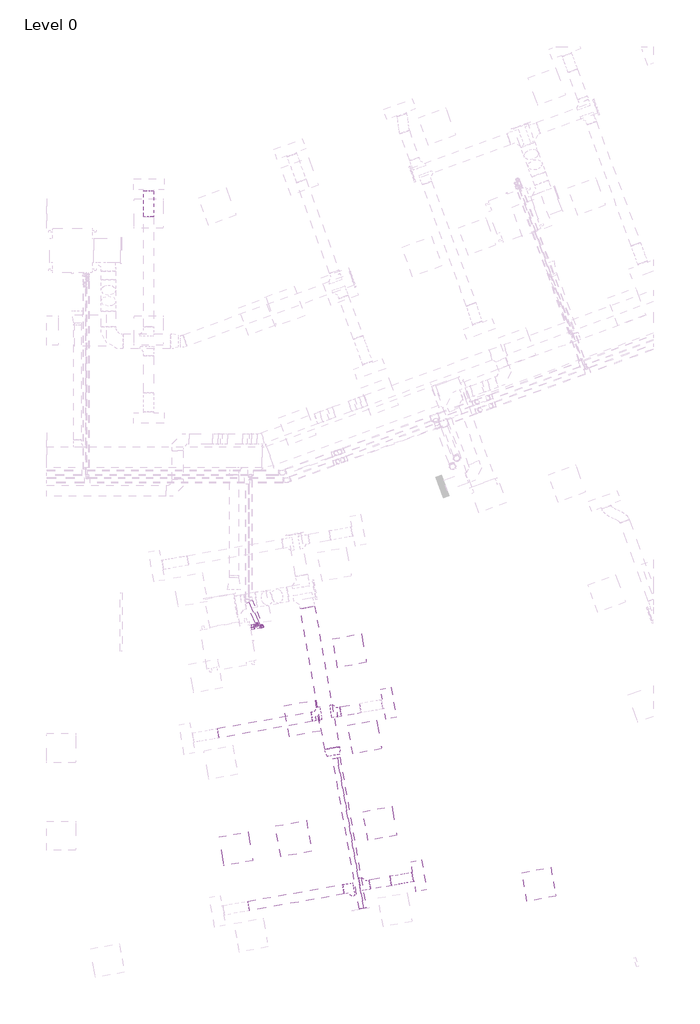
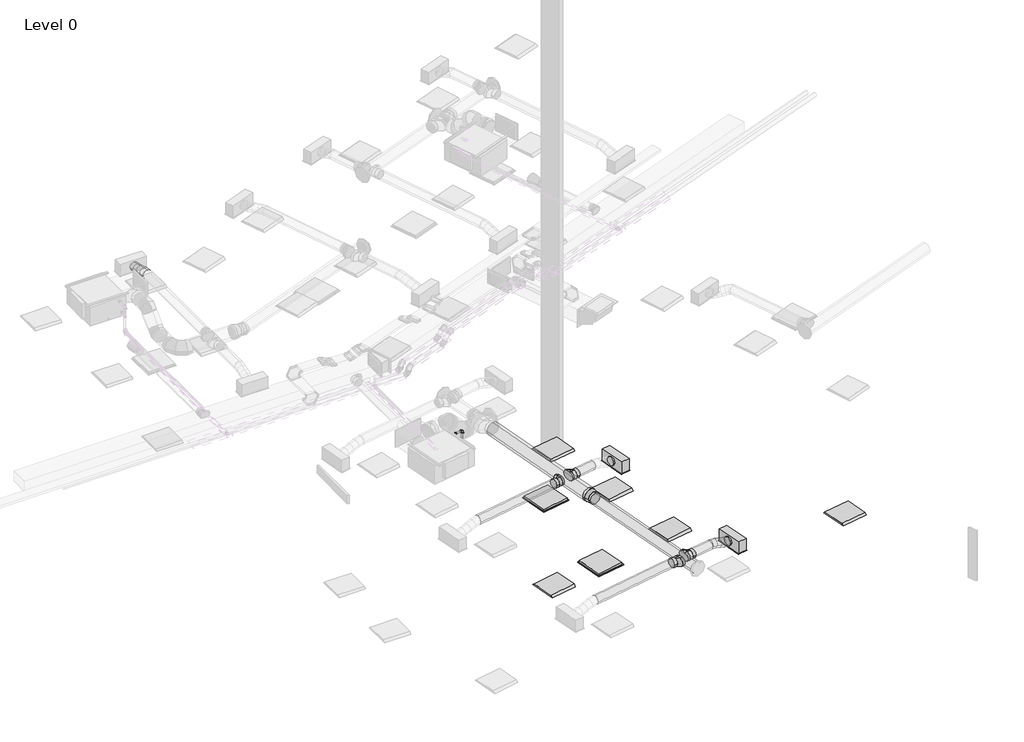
# One storey, part 18 of 34: 8 duct segments, 6 pipe fittings, 6 pipe segments, 5 duct fittings, 5 light fixtures, 4 air terminals.
"""IFC4 building model written with IfcOpenShell, lengths in millimetres."""

from ifc_helpers import new_model, si_unit, point, frame, frame_2d, origin, place, context, project, spatial, circle_curve, ellipse_curve, trimmed, segment, composite_curve, outline, extrude, transform, mapped, element, save
from ifc_brep_helpers import plane_surface, cylinder_surface, advanced_brep
from components import return_grille_rectangular_hosted_standard_7b12617c, supply_diffuser_with_plenum_linear_slot_hosted_8e4f2f20, dw144_round_shoe_branch_slip_joint1_standard_2_15a2edd8, dw144_round_shoe_branch_slip_joint1_standard_2_3a899113, dw144_round_taper_slip_joint_standard_7b2c0993, light_fixture_1c7c1157, elbow_threaded_gmi_standard_b4aa7741, socket_reducing_threaded_gmi_standard_7a3748ab

model = new_model("IFC4")

# Units and contexts
model_context = context("Model", 3, world=origin())
ifc_project = project(units=[si_unit("LENGTHUNIT", "METRE", prefix="MILLI")], contexts=[model_context])

# Site, building, storey
site = spatial("IfcSite", under=ifc_project)
building = spatial("IfcBuilding", under=site)
storey = spatial("IfcBuildingStorey", under=building, Name="Level 0", Elevation=0.0)

# Air terminals
placement = place(None, origin())
return_grille_rectangular_hosted_standard_shape = return_grille_rectangular_hosted_standard_7b12617c(model_context)
element("IfcAirTerminal", 1, ObjectType="Return Grille - Rectangular - Hosted : Standard", at=placement, inside=storey, context=model_context, shape_type="MappedRepresentation", body=[
    mapped(return_grille_rectangular_hosted_standard_shape, transform((33736.3792363, 1334.082517, 2800.0), x_axis=(0.9848077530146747, 0.17364817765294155, 0.0), y_axis=(0.17364817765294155, -0.9848077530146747, 0.0), z_axis=(0.0, 0.0, -1.0))),
])
element("IfcAirTerminal", 2, ObjectType="Return Grille - Rectangular - Hosted : Standard", at=placement, inside=storey, context=model_context, shape_type="MappedRepresentation", body=[
    mapped(return_grille_rectangular_hosted_standard_shape, transform((33910.5082617, 3801.8100308, 2800.0), x_axis=(0.9848077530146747, 0.17364817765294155, 0.0), y_axis=(0.17364817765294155, -0.9848077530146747, 0.0), z_axis=(0.0, 0.0, -1.0))),
])
supply_diffuser_with_plenum_linear_slot_hosted_shape = supply_diffuser_with_plenum_linear_slot_hosted_8e4f2f20(model_context)
element("IfcAirTerminal", 3, ObjectType="Supply Diffuser with Plenum - Linear Slot - Hosted : 24\" x 8\"-200 In Inlet  4-Slot", at=placement, inside=storey, context=model_context, shape_type="MappedRepresentation", body=[
    mapped(supply_diffuser_with_plenum_linear_slot_hosted_shape, transform((35683.1622171, 4114.3767506, 2800.0), x_axis=(0.1736481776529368, -0.9848077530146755, 0.0), y_axis=(-0.9848077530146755, -0.1736481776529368, 0.0), z_axis=(0.0, 0.0, -1.0))),
])
element("IfcAirTerminal", 4, ObjectType="Supply Diffuser with Plenum - Linear Slot - Hosted : 24\" x 8\"-200 In Inlet  4-Slot", at=placement, inside=storey, context=model_context, shape_type="MappedRepresentation", body=[
    mapped(supply_diffuser_with_plenum_linear_slot_hosted_shape, transform((36308.2956567, 569.0688397, 2800.0), x_axis=(0.1736481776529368, -0.9848077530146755, 0.0), y_axis=(-0.9848077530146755, -0.1736481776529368, 0.0), z_axis=(0.0, 0.0, -1.0))),
])

# Duct fittings
dw144_round_shoe_branch_slip_joint1_standard_2_shape = dw144_round_shoe_branch_slip_joint1_standard_2_15a2edd8(model_context)
element("IfcDuctFitting", 5, ObjectType="DW144 Round Shoe Branch - Slip Joint1 : Standard 2", at=placement, inside=storey, context=model_context, shape_type="MappedRepresentation", body=[
    mapped(dw144_round_shoe_branch_slip_joint1_standard_2_shape, transform((35154.4321897, 365.6115785, 3072.2088531), x_axis=(0.9848077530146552, 0.17364817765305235, 0.0), y_axis=(0.17364817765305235, -0.9848077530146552, 0.0), z_axis=(0.0, 0.0, -1.0))),
])
element("IfcDuctFitting", 6, ObjectType="DW144 Round Shoe Branch - Slip Joint1 : Standard 2", at=placement, inside=storey, context=model_context, shape_type="MappedRepresentation", body=[
    mapped(dw144_round_shoe_branch_slip_joint1_standard_2_shape, transform((34908.2302515, 322.1995341, 3072.2088531), x_axis=(-0.9848077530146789, -0.17364817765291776, 0.0), y_axis=(-0.17364817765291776, 0.9848077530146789, 0.0), z_axis=(0.0, 0.0, -1.0))),
])
dw144_round_shoe_branch_slip_joint1_standard_2_2_shape = dw144_round_shoe_branch_slip_joint1_standard_2_3a899113(model_context)
element("IfcDuctFitting", 7, ObjectType="DW144 Round Shoe Branch - Slip Joint1 : Standard 2", at=placement, inside=storey, context=model_context, shape_type="MappedRepresentation", body=[
    mapped(dw144_round_shoe_branch_slip_joint1_standard_2_2_shape, transform((34258.4766181, 3863.1662405, 3072.2088531), x_axis=(-0.9848077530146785, -0.17364817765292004, 0.0), y_axis=(0.17364817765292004, -0.9848077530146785, 0.0), z_axis=(0.0, 0.0, 1.0))),
])
element("IfcDuctFitting", 8, ObjectType="DW144 Round Shoe Branch - Slip Joint1 : Standard 2", at=placement, inside=storey, context=model_context, shape_type="MappedRepresentation", body=[
    mapped(dw144_round_shoe_branch_slip_joint1_standard_2_2_shape, transform((34553.918944, 3915.2606938, 3072.2088531), x_axis=(0.9848077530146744, 0.17364817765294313, 0.0), y_axis=(0.17364817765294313, -0.9848077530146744, 0.0), z_axis=(0.0, 0.0, -1.0))),
])
dw144_round_taper_slip_joint_standard_shape = dw144_round_taper_slip_joint_standard_7b2c0993(model_context)
element("IfcDuctFitting", 9, ObjectType="DW144 Round Taper - Slip Joint : Standard", at=placement, inside=storey, context=model_context, shape_type="MappedRepresentation", body=[
    mapped(dw144_round_taper_slip_joint_standard_shape, transform((34529.2296476, 3191.465079, 3072.2088531), x_axis=(0.17364817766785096, -0.9848077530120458, 0.0), y_axis=(0.9848077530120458, 0.17364817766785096, 0.0), z_axis=(0.0, 0.0, 1.0))),
])

# Duct segments
element("IfcDuctSegment", 10, ObjectType="DW144 Segmented Bend / Shoe Branch", at=placement, inside=storey, context=model_context, shape_type="SweptSolid", body=[
    extrude(outline(composite_curve([segment(trimmed(circle_curve(frame_2d((0.0, -125.0)), 125.0), [point((-125.0, -125.0))], [point((0.0, 0.0))], False, "CARTESIAN"), True, "CONTINUOUS"), segment(trimmed(circle_curve(frame_2d((0.0, -125.0)), 125.0), [point((0.0, 0.0))], [point((125.0, -125.0))], False, "CARTESIAN"), True, "CONTINUOUS"), segment(trimmed(circle_curve(frame_2d((0.0, -125.0)), 125.0), [point((125.0, -125.0))], [point((0.0, -250.0))], False, "CARTESIAN"), True, "CONTINUOUS"), segment(trimmed(circle_curve(frame_2d((0.0, -125.0)), 125.0), [point((0.0, -250.0))], [point((-125.0, -125.0))], False, "CARTESIAN"), True, "CONTINUOUS")], self_intersect=False)), frame((35110.8297064, -106.9527609, 2947.2088531), z_axis=(-0.17364817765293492, 0.9848077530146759, 0.0), x_axis=(0.9848077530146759, 0.17364817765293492, 0.0)), (0.0, 0.0, 1.0), 3135.9999815),
])
element("IfcDuctSegment", 11, ObjectType="DW144 Segmented Bend / Shoe Branch", at=placement, inside=storey, context=model_context, shape_type="SweptSolid", body=[
    extrude(outline(composite_curve([segment(trimmed(circle_curve(frame_2d((0.0, 100.0)), 100.0), [point((100.0, 100.0))], [point((0.0, 0.0))], False, "CARTESIAN"), True, "CONTINUOUS"), segment(trimmed(circle_curve(frame_2d((0.0, 100.0)), 100.0), [point((0.0, 0.0))], [point((-100.0, 100.0))], False, "CARTESIAN"), True, "CONTINUOUS"), segment(trimmed(circle_curve(frame_2d((0.0, 100.0)), 100.0), [point((-100.0, 100.0))], [point((0.0, 200.0))], False, "CARTESIAN"), True, "CONTINUOUS"), segment(trimmed(circle_curve(frame_2d((0.0, 100.0)), 100.0), [point((0.0, 200.0))], [point((100.0, 100.0))], False, "CARTESIAN"), True, "CONTINUOUS")], self_intersect=False)), frame((34701.640107, 3941.3079204, 3172.2088531), z_axis=(0.9848077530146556, 0.1736481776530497, 0.0), x_axis=(0.1736481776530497, -0.9848077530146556, 0.0)), (0.0, 0.0, 1.0), 410.0),
])
element("IfcDuctSegment", 12, ObjectType="DW144 Segmented Bend / Shoe Branch", at=placement, inside=storey, context=model_context, shape_type="SweptSolid", body=[
    extrude(outline(composite_curve([segment(trimmed(circle_curve(frame_2d((0.0, -100.0)), 100.0), [point((-100.0, -100.0))], [point((0.0, 0.0))], False, "CARTESIAN"), True, "CONTINUOUS"), segment(trimmed(circle_curve(frame_2d((0.0, -100.0)), 100.0), [point((0.0, 0.0))], [point((100.0, -100.0))], False, "CARTESIAN"), True, "CONTINUOUS"), segment(trimmed(circle_curve(frame_2d((0.0, -100.0)), 100.0), [point((100.0, -100.0))], [point((0.0, -200.0))], False, "CARTESIAN"), True, "CONTINUOUS"), segment(trimmed(circle_curve(frame_2d((0.0, -100.0)), 100.0), [point((0.0, -200.0))], [point((-100.0, -100.0))], False, "CARTESIAN"), True, "CONTINUOUS")], self_intersect=False)), frame((32190.3803368, 3498.5050674, 2972.2088531), z_axis=(0.9848077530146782, 0.17364817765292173, 0.0), x_axis=(0.17364817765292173, -0.9848077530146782, 0.0)), (0.0, 0.0, 1.0), 1950.0),
])
element("IfcDuctSegment", 13, ObjectType="DW144 Segmented Bend / Shoe Branch", at=placement, inside=storey, context=model_context, shape_type="SweptSolid", body=[
    extrude(outline(composite_curve([segment(trimmed(circle_curve(frame_2d((0.0, -150.0)), 150.0), [point((-150.0, -150.0))], [point((0.0, 0.0))], False, "CARTESIAN"), True, "CONTINUOUS"), segment(trimmed(circle_curve(frame_2d((0.0, -150.0)), 150.0), [point((0.0, 0.0))], [point((150.0, -150.0))], False, "CARTESIAN"), True, "CONTINUOUS"), segment(trimmed(circle_curve(frame_2d((0.0, -150.0)), 150.0), [point((150.0, -150.0))], [point((0.0, -300.0))], False, "CARTESIAN"), True, "CONTINUOUS"), segment(trimmed(circle_curve(frame_2d((0.0, -150.0)), 150.0), [point((0.0, -300.0))], [point((-150.0, -150.0))], False, "CARTESIAN"), True, "CONTINUOUS")], self_intersect=False)), frame((34529.2296476, 3191.465079, 2922.2088531), z_axis=(-0.17364817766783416, 0.9848077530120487, 0.0), x_axis=(0.9848077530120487, 0.17364817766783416, 0.0)), (0.0, 0.0, 1.0), 2934.6959585),
])
element("IfcDuctSegment", 14, ObjectType="DW144 Segmented Bend / Shoe Branch", at=placement, inside=storey, context=model_context, shape_type="SweptSolid", body=[
    extrude(outline(composite_curve([segment(trimmed(circle_curve(frame_2d((0.0, -100.0)), 100.0), [point((-100.0, -100.0))], [point((0.0, 0.0))], False, "CARTESIAN"), True, "CONTINUOUS"), segment(trimmed(circle_curve(frame_2d((0.0, -100.0)), 100.0), [point((0.0, 0.0))], [point((100.0, -100.0))], False, "CARTESIAN"), True, "CONTINUOUS"), segment(trimmed(circle_curve(frame_2d((0.0, -100.0)), 100.0), [point((100.0, -100.0))], [point((0.0, -200.0))], False, "CARTESIAN"), True, "CONTINUOUS"), segment(trimmed(circle_curve(frame_2d((0.0, -100.0)), 100.0), [point((0.0, -200.0))], [point((-100.0, -100.0))], False, "CARTESIAN"), True, "CONTINUOUS")], self_intersect=False)), frame((35302.1533527, 391.6588051, 2972.2088531), z_axis=(0.9848077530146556, 0.17364817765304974, 0.0), x_axis=(0.17364817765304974, -0.9848077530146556, 0.0)), (0.0, 0.0, 1.0), 435.0),
])
element("IfcDuctSegment", 15, ObjectType="DW144 Segmented Bend / Shoe Branch", at=placement, inside=storey, context=model_context, shape_type="SweptSolid", body=[
    extrude(outline(composite_curve([segment(trimmed(circle_curve(frame_2d((0.0, 100.0)), 100.0), [point((100.0, 100.0))], [point((0.0, 0.0))], False, "CARTESIAN"), True, "CONTINUOUS"), segment(trimmed(circle_curve(frame_2d((0.0, 100.0)), 100.0), [point((0.0, 0.0))], [point((-100.0, 100.0))], False, "CARTESIAN"), True, "CONTINUOUS"), segment(trimmed(circle_curve(frame_2d((0.0, 100.0)), 100.0), [point((-100.0, 100.0))], [point((0.0, 200.0))], False, "CARTESIAN"), True, "CONTINUOUS"), segment(trimmed(circle_curve(frame_2d((0.0, 100.0)), 100.0), [point((0.0, 200.0))], [point((100.0, 100.0))], False, "CARTESIAN"), True, "CONTINUOUS")], self_intersect=False)), frame((32815.5137763, -46.8028435, 3172.2088531), z_axis=(0.9848077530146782, 0.17364817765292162, 0.0), x_axis=(0.17364817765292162, -0.9848077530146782, 0.0)), (0.0, 0.0, 1.0), 1975.0),
])
element("IfcDuctSegment", 16, ObjectType="Flex - Round", at=placement, inside=storey, context=model_context, shape_type="AdvancedBrep", body=[
    advanced_brep(
    [(30662.2000027, 14100.4916128, 3072.2088531), (30762.2000027, 14100.4916128, 2972.2088531), (30862.2000027, 14100.4916128, 3072.2088531), (30762.2000027, 14100.4916128, 3172.2088531), (30662.2000027, 14114.0357302, 3072.2088531), (30762.2000027, 14106.4797066, 2972.2088531), (30862.2000027, 14114.0357302, 3072.2088531), (30762.2000027, 14121.5917538, 3172.2088531), (30662.2000027, 14634.3000004, 2954.4), (30762.2000027, 14634.3000004, 3054.4), (30862.2000027, 14634.3000004, 2954.4), (30762.2000027, 14634.3000004, 2854.4), (30662.2000027, 14235.1479623, 3053.8012198), (30762.2000027, 14212.875909, 2956.0378831), (30862.2000027, 14235.1479623, 3053.8012198), (30762.2000027, 14257.4200155, 3151.5645566), (30662.2000027, 14367.3958066, 3013.3044266), (30762.2000027, 14338.1159448, 2917.6870134), (30862.2000027, 14367.3958066, 3013.3044266), (30762.2000027, 14396.6756684, 3108.9218397), (30662.2000027, 14499.643651, 2972.8076333), (30762.2000027, 14477.3715977, 2875.0442965), (30862.2000027, 14499.643651, 2972.8076333), (30762.2000027, 14521.9157042, 3070.5709701), (30662.2000027, 14620.755883, 2954.4), (30762.2000027, 14613.1998594, 2854.4), (30862.2000027, 14620.755883, 2954.4), (30762.2000027, 14628.3119066, 3054.4)],
    [
        (0, 1, circle_curve(frame((30762.2000027, 14100.4916128, 3072.2088531), z_axis=(0.0, -1.0, 0.0), x_axis=(-1.0, 0.0, 0.0)), 100.0)),
        (1, 2, circle_curve(frame((30762.2000027, 14100.4916128, 3072.2088531), z_axis=(0.0, -1.0, 0.0), x_axis=(-1.0, 0.0, 0.0)), 100.0)),
        (2, 3, circle_curve(frame((30762.2000027, 14100.4916128, 3072.2088531), z_axis=(0.0, -1.0, 0.0), x_axis=(-1.0, 0.0, 0.0)), 100.0)),
        (3, 0, circle_curve(frame((30762.2000027, 14100.4916128, 3072.2088531), z_axis=(0.0, -1.0, 0.0), x_axis=(-1.0, 0.0, 0.0)), 100.0)),
        (0, 4),
        (4, 5, ellipse_curve(frame((30762.2000027, 14114.0357302, 3072.2088531), z_axis=(0.0, -0.9971574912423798, 0.07534545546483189), x_axis=(0.0, -0.0753454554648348, -0.9971574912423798)), 100.2850612, 100.0)),
        (5, 1),
        (5, 6, ellipse_curve(frame((30762.2000027, 14114.0357302, 3072.2088531), z_axis=(0.0, -0.9971574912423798, 0.07534545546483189), x_axis=(0.0, -0.0753454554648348, -0.9971574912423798)), 100.2850612, 100.0)),
        (6, 2),
        (6, 7, ellipse_curve(frame((30762.2000027, 14114.0357302, 3072.2088531), z_axis=(0.0, -0.9971574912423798, 0.07534545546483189), x_axis=(0.0, -0.0753454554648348, -0.9971574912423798)), 100.2850612, 100.0)),
        (7, 3),
        (7, 4, ellipse_curve(frame((30762.2000027, 14114.0357302, 3072.2088531), z_axis=(0.0, -0.9971574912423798, 0.07534545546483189), x_axis=(0.0, -0.0753454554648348, -0.9971574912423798)), 100.2850612, 100.0)),
        (8, 9, circle_curve(frame((30762.2000027, 14634.3000004, 2954.4), z_axis=(0.0, 1.0, 0.0), x_axis=(-1.0, 0.0, 0.0)), 100.0)),
        (9, 10, circle_curve(frame((30762.2000027, 14634.3000004, 2954.4), z_axis=(0.0, 1.0, 0.0), x_axis=(-1.0, 0.0, 0.0)), 100.0)),
        (10, 11, circle_curve(frame((30762.2000027, 14634.3000004, 2954.4), z_axis=(0.0, 1.0, 0.0), x_axis=(-1.0, 0.0, 0.0)), 100.0)),
        (11, 8, circle_curve(frame((30762.2000027, 14634.3000004, 2954.4), z_axis=(0.0, 1.0, 0.0), x_axis=(-1.0, 0.0, 0.0)), 100.0)),
        (4, 12),
        (12, 13, ellipse_curve(frame((30762.2000027, 14235.1479623, 3053.8012198), z_axis=(0.0, -0.9750182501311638, 0.22212476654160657), x_axis=(0.0, -0.22212476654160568, -0.9750182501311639)), 100.2682122, 100.0)),
        (13, 5),
        (13, 14, ellipse_curve(frame((30762.2000027, 14235.1479623, 3053.8012198), z_axis=(0.0, -0.9750182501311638, 0.22212476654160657), x_axis=(0.0, -0.22212476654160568, -0.9750182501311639)), 100.2682122, 100.0)),
        (14, 6),
        (14, 15, ellipse_curve(frame((30762.2000027, 14235.1479623, 3053.8012198), z_axis=(0.0, -0.9750182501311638, 0.22212476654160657), x_axis=(0.0, -0.22212476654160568, -0.9750182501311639)), 100.2682122, 100.0)),
        (15, 7),
        (15, 12, ellipse_curve(frame((30762.2000027, 14235.1479623, 3053.8012198), z_axis=(0.0, -0.9750182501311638, 0.22212476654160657), x_axis=(0.0, -0.22212476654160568, -0.9750182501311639)), 100.2682122, 100.0)),
        (12, 16),
        (16, 17, circle_curve(frame((30762.2000027, 14367.3958066, 3013.3044266), z_axis=(0.0, -0.9561741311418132, 0.29279861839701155), x_axis=(-1.0, 0.0, 0.0)), 100.0)),
        (17, 13),
        (17, 18, circle_curve(frame((30762.2000027, 14367.3958066, 3013.3044266), z_axis=(0.0, -0.9561741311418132, 0.29279861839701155), x_axis=(-1.0, 0.0, 0.0)), 100.0)),
        (18, 14),
        (18, 19, circle_curve(frame((30762.2000027, 14367.3958066, 3013.3044266), z_axis=(0.0, -0.9561741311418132, 0.29279861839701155), x_axis=(-1.0, 0.0, 0.0)), 100.0)),
        (19, 15),
        (19, 16, circle_curve(frame((30762.2000027, 14367.3958066, 3013.3044266), z_axis=(0.0, -0.9561741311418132, 0.29279861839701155), x_axis=(-1.0, 0.0, 0.0)), 100.0)),
        (16, 20),
        (20, 21, ellipse_curve(frame((30762.2000027, 14499.643651, 2972.8076333), z_axis=(0.0, -0.9750182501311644, 0.2221247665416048), x_axis=(0.0, 0.22212476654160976, 0.9750182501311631)), 100.2682122, 100.0)),
        (21, 17),
        (21, 22, ellipse_curve(frame((30762.2000027, 14499.643651, 2972.8076333), z_axis=(0.0, -0.9750182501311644, 0.2221247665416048), x_axis=(0.0, 0.22212476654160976, 0.9750182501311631)), 100.2682122, 100.0)),
        (22, 18),
        (22, 23, ellipse_curve(frame((30762.2000027, 14499.643651, 2972.8076333), z_axis=(0.0, -0.9750182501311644, 0.2221247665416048), x_axis=(0.0, 0.22212476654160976, 0.9750182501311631)), 100.2682122, 100.0)),
        (23, 19),
        (23, 20, ellipse_curve(frame((30762.2000027, 14499.643651, 2972.8076333), z_axis=(0.0, -0.9750182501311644, 0.2221247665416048), x_axis=(0.0, 0.22212476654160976, 0.9750182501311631)), 100.2682122, 100.0)),
        (20, 24),
        (24, 25, ellipse_curve(frame((30762.2000027, 14620.755883, 2954.4), z_axis=(0.0, -0.9971574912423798, 0.07534545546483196), x_axis=(0.0, 0.07534545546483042, 0.9971574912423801)), 100.2850612, 100.0)),
        (25, 21),
        (25, 26, ellipse_curve(frame((30762.2000027, 14620.755883, 2954.4), z_axis=(0.0, -0.9971574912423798, 0.07534545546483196), x_axis=(0.0, 0.07534545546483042, 0.9971574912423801)), 100.2850612, 100.0)),
        (26, 22),
        (26, 27, ellipse_curve(frame((30762.2000027, 14620.755883, 2954.4), z_axis=(0.0, -0.9971574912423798, 0.07534545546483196), x_axis=(0.0, 0.07534545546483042, 0.9971574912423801)), 100.2850612, 100.0)),
        (27, 23),
        (27, 24, ellipse_curve(frame((30762.2000027, 14620.755883, 2954.4), z_axis=(0.0, -0.9971574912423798, 0.07534545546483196), x_axis=(0.0, 0.07534545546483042, 0.9971574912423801)), 100.2850612, 100.0)),
        (24, 8),
        (11, 25),
        (10, 26),
        (9, 27),
    ],
    [
        plane_surface(frame((30662.2000027, 14100.4916128, 3072.2088531), z_axis=(0.0, -1.0, 0.0), x_axis=(0.0, 0.0, 1.0))),
        cylinder_surface(frame((30762.2000027, 14100.4916128, 3072.2088531), z_axis=(0.0, -1.0, 0.0), x_axis=(-1.0, 0.0, 0.0)), 100.0),
        plane_surface(frame((30662.2000027, 14634.3000004, 2954.4), z_axis=(0.0, 1.0, 0.0), x_axis=(0.0, 0.0, 1.0))),
        cylinder_surface(frame((30762.2000027, 14114.0357302, 3072.2088531), z_axis=(0.0, -0.9886461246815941, 0.15026257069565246), x_axis=(-1.0, 0.0, 0.0)), 100.0),
        cylinder_surface(frame((30762.2000027, 14235.1479623, 3053.8012198), z_axis=(0.0, -0.9561741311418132, 0.29279861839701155), x_axis=(-1.0, 0.0, 0.0)), 100.0),
        cylinder_surface(frame((30762.2000027, 14367.3958066, 3013.3044266), z_axis=(0.0, -0.9561741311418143, 0.29279861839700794), x_axis=(-1.0, 0.0, 0.0)), 100.0),
        cylinder_surface(frame((30762.2000027, 14499.643651, 2972.8076333), z_axis=(0.0, -0.9886461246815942, 0.15026257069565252), x_axis=(-1.0, 0.0, 0.0)), 100.0),
        cylinder_surface(frame((30762.2000027, 14620.755883, 2954.4), z_axis=(0.0, -1.0, 0.0), x_axis=(-1.0, 0.0, 0.0)), 100.0),
    ],
    [
        (0, [[1, 2, 3, 4]]),
        (1, [[-1, 5, 6, 7]]),
        (1, [[-2, -7, 8, 9]]),
        (1, [[-3, -9, 10, 11]]),
        (1, [[-4, -11, 12, -5]]),
        (2, [[13, 14, 15, 16]]),
        (3, [[-6, 17, 18, 19]]),
        (3, [[-8, -19, 20, 21]]),
        (3, [[-10, -21, 22, 23]]),
        (3, [[-12, -23, 24, -17]]),
        (4, [[-18, 25, 26, 27]]),
        (4, [[-20, -27, 28, 29]]),
        (4, [[-22, -29, 30, 31]]),
        (4, [[-24, -31, 32, -25]]),
        (5, [[-26, 33, 34, 35]]),
        (5, [[-28, -35, 36, 37]]),
        (5, [[-30, -37, 38, 39]]),
        (5, [[-32, -39, 40, -33]]),
        (6, [[-34, 41, 42, 43]]),
        (6, [[-36, -43, 44, 45]]),
        (6, [[-38, -45, 46, 47]]),
        (6, [[-40, -47, 48, -41]]),
        (7, [[-42, 49, -16, 50]]),
        (7, [[-44, -50, -15, 51]]),
        (7, [[-46, -51, -14, 52]]),
        (7, [[-48, -52, -13, -49]]),
    ],
),
])
element("IfcDuctSegment", 17, ObjectType="Flex - Round", at=placement, inside=storey, context=model_context, shape_type="AdvancedBrep", body=[
    advanced_brep(
    [(35713.1799075, 565.6765377, 3072.2088531), (35730.5447252, 467.1957624, 2972.2088531), (35747.909543, 368.7149871, 3072.2088531), (35730.5447252, 467.1957624, 3172.2088531), (35728.6352342, 568.4017288, 3072.2088531), (35737.0244208, 468.3383075, 2972.2088531), (35763.3648697, 371.4401782, 3072.2088531), (35754.9756831, 471.5035994, 3172.2088531), (36163.9891196, 645.1663649, 2954.4), (36181.3539373, 546.6855896, 3054.4), (36198.7187551, 448.2048143, 2954.4), (36181.3539373, 546.6855896, 2854.4), (35827.2593833, 585.7918272, 3053.8012198), (35818.9473638, 482.7835327, 2956.9184044), (35861.9890189, 388.8302766, 3053.8012198), (35870.3010384, 491.8385711, 3150.6840352), (35938.5845135, 605.4214513, 3013.3044266), (35922.7361411, 501.0842945, 2919.1631137), (35973.3141491, 408.4599007, 3013.3044266), (35989.1625214, 512.7970575, 3107.4457395), (36049.9096437, 625.0510754, 2972.8076333), (36041.5976242, 522.0427809, 2875.9248179), (36084.6392793, 428.0895248, 2972.8076333), (36092.9512988, 531.0978193, 3069.6904487), (36148.5337929, 642.4411738, 2954.4), (36156.9229795, 542.3777526, 2854.4), (36183.2634284, 445.4796232, 2954.4), (36174.8742418, 545.5430445, 3054.4)],
    [
        (0, 1, circle_curve(frame((35730.5447252, 467.1957624, 3072.2088531), z_axis=(-0.9848077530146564, -0.17364817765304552, 0.0), x_axis=(-0.17364817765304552, 0.9848077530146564, 0.0)), 100.0)),
        (1, 2, circle_curve(frame((35730.5447252, 467.1957624, 3072.2088531), z_axis=(-0.9848077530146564, -0.17364817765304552, 0.0), x_axis=(-0.17364817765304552, 0.9848077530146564, 0.0)), 100.0)),
        (2, 3, circle_curve(frame((35730.5447252, 467.1957624, 3072.2088531), z_axis=(-0.9848077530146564, -0.17364817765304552, 0.0), x_axis=(-0.17364817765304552, 0.9848077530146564, 0.0)), 100.0)),
        (3, 0, circle_curve(frame((35730.5447252, 467.1957624, 3072.2088531), z_axis=(-0.9848077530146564, -0.17364817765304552, 0.0), x_axis=(-0.17364817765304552, 0.9848077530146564, 0.0)), 100.0)),
        (0, 4),
        (4, 5, ellipse_curve(frame((35746.000052, 469.9209535, 3072.2088531), z_axis=(-0.9807428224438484, -0.17293142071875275, 0.09076475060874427), x_axis=(-0.08938583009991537, -0.015761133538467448, -0.9958723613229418)), 100.4144747, 100.0)),
        (5, 1),
        (5, 6, ellipse_curve(frame((35746.000052, 469.9209535, 3072.2088531), z_axis=(-0.9807428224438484, -0.17293142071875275, 0.09076475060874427), x_axis=(-0.08938583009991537, -0.015761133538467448, -0.9958723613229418)), 100.4144747, 100.0)),
        (6, 2),
        (6, 7, ellipse_curve(frame((35746.000052, 469.9209535, 3072.2088531), z_axis=(-0.9807428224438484, -0.17293142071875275, 0.09076475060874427), x_axis=(-0.08938583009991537, -0.015761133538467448, -0.9958723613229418)), 100.4144747, 100.0)),
        (7, 3),
        (7, 4, ellipse_curve(frame((35746.000052, 469.9209535, 3072.2088531), z_axis=(-0.9807428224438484, -0.17293142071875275, 0.09076475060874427), x_axis=(-0.08938583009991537, -0.015761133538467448, -0.9958723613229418)), 100.4144747, 100.0)),
        (8, 9, circle_curve(frame((36181.3539373, 546.6855896, 2954.4), z_axis=(0.9848077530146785, 0.17364817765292, 0.0), x_axis=(-0.17364817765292, 0.9848077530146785, 0.0)), 100.0)),
        (9, 10, circle_curve(frame((36181.3539373, 546.6855896, 2954.4), z_axis=(0.9848077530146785, 0.17364817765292, 0.0), x_axis=(-0.17364817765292, 0.9848077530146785, 0.0)), 100.0)),
        (10, 11, circle_curve(frame((36181.3539373, 546.6855896, 2954.4), z_axis=(0.9848077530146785, 0.17364817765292, 0.0), x_axis=(-0.17364817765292, 0.9848077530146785, 0.0)), 100.0)),
        (11, 8, circle_curve(frame((36181.3539373, 546.6855896, 2954.4), z_axis=(0.9848077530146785, 0.17364817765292, 0.0), x_axis=(-0.17364817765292, 0.9848077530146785, 0.0)), 100.0)),
        (4, 12),
        (12, 13, ellipse_curve(frame((35844.6242011, 487.3110519, 3053.8012198), z_axis=(-0.9509727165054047, -0.16768214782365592, 0.2598722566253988), x_axis=(-0.25592421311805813, -0.04512634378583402, -0.965643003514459)), 100.3298476, 100.0)),
        (13, 5),
        (13, 14, ellipse_curve(frame((35844.6242011, 487.3110519, 3053.8012198), z_axis=(-0.9509727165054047, -0.16768214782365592, 0.2598722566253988), x_axis=(-0.25592421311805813, -0.04512634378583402, -0.965643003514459)), 100.3298476, 100.0)),
        (14, 6),
        (14, 15, ellipse_curve(frame((35844.6242011, 487.3110519, 3053.8012198), z_axis=(-0.9509727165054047, -0.16768214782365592, 0.2598722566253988), x_axis=(-0.25592421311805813, -0.04512634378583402, -0.965643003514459)), 100.3298476, 100.0)),
        (15, 7),
        (15, 12, ellipse_curve(frame((35844.6242011, 487.3110519, 3053.8012198), z_axis=(-0.9509727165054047, -0.16768214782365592, 0.2598722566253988), x_axis=(-0.25592421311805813, -0.04512634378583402, -0.965643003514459)), 100.3298476, 100.0)),
        (12, 16),
        (16, 17, circle_curve(frame((35955.9493313, 506.940676, 3013.3044266), z_axis=(-0.9271109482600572, -0.16347467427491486, 0.3372555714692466), x_axis=(-0.17364817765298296, 0.9848077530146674, 0.0)), 100.0)),
        (17, 13),
        (17, 18, circle_curve(frame((35955.9493313, 506.940676, 3013.3044266), z_axis=(-0.9271109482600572, -0.16347467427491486, 0.3372555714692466), x_axis=(-0.17364817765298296, 0.9848077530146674, 0.0)), 100.0)),
        (18, 14),
        (18, 19, circle_curve(frame((35955.9493313, 506.940676, 3013.3044266), z_axis=(-0.9271109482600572, -0.16347467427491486, 0.3372555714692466), x_axis=(-0.17364817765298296, 0.9848077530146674, 0.0)), 100.0)),
        (19, 15),
        (19, 16, circle_curve(frame((35955.9493313, 506.940676, 3013.3044266), z_axis=(-0.9271109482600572, -0.16347467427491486, 0.3372555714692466), x_axis=(-0.17364817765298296, 0.9848077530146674, 0.0)), 100.0)),
        (16, 20),
        (20, 21, ellipse_curve(frame((36067.2744615, 526.5703001, 2972.8076333), z_axis=(-0.9509727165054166, -0.1676821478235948, 0.2598722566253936), x_axis=(0.2559242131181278, 0.04512634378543, 0.9656430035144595)), 100.3298476, 100.0)),
        (21, 17),
        (21, 22, ellipse_curve(frame((36067.2744615, 526.5703001, 2972.8076333), z_axis=(-0.9509727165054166, -0.1676821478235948, 0.2598722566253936), x_axis=(0.2559242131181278, 0.04512634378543, 0.9656430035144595)), 100.3298476, 100.0)),
        (22, 18),
        (22, 23, ellipse_curve(frame((36067.2744615, 526.5703001, 2972.8076333), z_axis=(-0.9509727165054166, -0.1676821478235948, 0.2598722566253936), x_axis=(0.2559242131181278, 0.04512634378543, 0.9656430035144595)), 100.3298476, 100.0)),
        (23, 19),
        (23, 20, ellipse_curve(frame((36067.2744615, 526.5703001, 2972.8076333), z_axis=(-0.9509727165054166, -0.1676821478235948, 0.2598722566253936), x_axis=(0.2559242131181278, 0.04512634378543, 0.9656430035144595)), 100.3298476, 100.0)),
        (20, 24),
        (24, 25, ellipse_curve(frame((36165.8986106, 543.9603985, 2954.4), z_axis=(-0.9807428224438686, -0.17293142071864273, 0.09076475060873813), x_axis=(0.08938583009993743, 0.01576113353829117, 0.9958723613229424)), 100.4144747, 100.0)),
        (25, 21),
        (25, 26, ellipse_curve(frame((36165.8986106, 543.9603985, 2954.4), z_axis=(-0.9807428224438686, -0.17293142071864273, 0.09076475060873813), x_axis=(0.08938583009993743, 0.01576113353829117, 0.9958723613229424)), 100.4144747, 100.0)),
        (26, 22),
        (26, 27, ellipse_curve(frame((36165.8986106, 543.9603985, 2954.4), z_axis=(-0.9807428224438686, -0.17293142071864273, 0.09076475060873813), x_axis=(0.08938583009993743, 0.01576113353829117, 0.9958723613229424)), 100.4144747, 100.0)),
        (27, 23),
        (27, 24, ellipse_curve(frame((36165.8986106, 543.9603985, 2954.4), z_axis=(-0.9807428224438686, -0.17293142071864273, 0.09076475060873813), x_axis=(0.08938583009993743, 0.01576113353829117, 0.9958723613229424)), 100.4144747, 100.0)),
        (24, 8),
        (11, 25),
        (10, 26),
        (9, 27),
    ],
    [
        plane_surface(frame((35730.5447252, 467.1957624, 3172.2088531), z_axis=(-0.9848077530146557, -0.17364817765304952, 0.0), x_axis=(0.17364817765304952, -0.9848077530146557, 0.0))),
        cylinder_surface(frame((35730.5447252, 467.1957624, 3072.2088531), z_axis=(-0.9848077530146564, -0.17364817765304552, 0.0), x_axis=(-0.17364817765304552, 0.9848077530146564, 0.0)), 100.0),
        plane_surface(frame((36181.3539373, 546.6855896, 3054.4), z_axis=(0.9848077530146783, 0.1736481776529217, 0.0), x_axis=(0.1736481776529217, -0.9848077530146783, 0.0))),
        cylinder_surface(frame((35746.000052, 469.9209535, 3072.2088531), z_axis=(-0.9685815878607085, -0.17078706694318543, 0.18078021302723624), x_axis=(-0.1736481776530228, 0.9848077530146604, 0.0)), 100.0),
        cylinder_surface(frame((35844.6242011, 487.3110519, 3053.8012198), z_axis=(-0.9271109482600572, -0.16347467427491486, 0.3372555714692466), x_axis=(-0.17364817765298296, 0.9848077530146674, 0.0)), 100.0),
        cylinder_surface(frame((35955.9493313, 506.940676, 3013.3044266), z_axis=(-0.9271109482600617, -0.16347467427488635, 0.3372555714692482), x_axis=(-0.17364817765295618, 0.984807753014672, 0.0)), 100.0),
        cylinder_surface(frame((36067.2744615, 526.5703001, 2972.8076333), z_axis=(-0.9685815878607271, -0.17078706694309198, 0.18078021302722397), x_axis=(-0.17364817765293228, 0.9848077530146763, 0.0)), 100.0),
        cylinder_surface(frame((36165.8986106, 543.9603985, 2954.4), z_axis=(-0.9848077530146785, -0.17364817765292, 0.0), x_axis=(-0.17364817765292, 0.9848077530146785, 0.0)), 100.0),
    ],
    [
        (0, [[1, 2, 3, 4]]),
        (1, [[-1, 5, 6, 7]]),
        (1, [[-2, -7, 8, 9]]),
        (1, [[-3, -9, 10, 11]]),
        (1, [[-4, -11, 12, -5]]),
        (2, [[13, 14, 15, 16]]),
        (3, [[-6, 17, 18, 19]]),
        (3, [[-8, -19, 20, 21]]),
        (3, [[-10, -21, 22, 23]]),
        (3, [[-12, -23, 24, -17]]),
        (4, [[-18, 25, 26, 27]]),
        (4, [[-20, -27, 28, 29]]),
        (4, [[-22, -29, 30, 31]]),
        (4, [[-24, -31, 32, -25]]),
        (5, [[-26, 33, 34, 35]]),
        (5, [[-28, -35, 36, 37]]),
        (5, [[-30, -37, 38, 39]]),
        (5, [[-32, -39, 40, -33]]),
        (6, [[-34, 41, 42, 43]]),
        (6, [[-36, -43, 44, 45]]),
        (6, [[-38, -45, 46, 47]]),
        (6, [[-40, -47, 48, -41]]),
        (7, [[-42, 49, -16, 50]]),
        (7, [[-44, -50, -15, 51]]),
        (7, [[-46, -51, -14, 52]]),
        (7, [[-48, -52, -13, -49]]),
    ],
),
])

# Light fixtures
light_fixture_shape = light_fixture_1c7c1157(model_context)
element("IfcLightFixture", 18, ObjectType="ELEKTRA Plain Recessed Lighting Fixture : 24\" x 24\" - 230", at=placement, inside=storey, context=model_context, shape_type="MappedRepresentation", body=[
    mapped(light_fixture_shape, transform((38532.6752979, 47.4030351, 2800.0), x_axis=(0.9848077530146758, 0.17364817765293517, 0.0), y_axis=(0.17364817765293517, -0.9848077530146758, 0.0), z_axis=(0.0, 0.0, -1.0))),
])
element("IfcLightFixture", 19, ObjectType="ELEKTRA Plain Recessed Lighting Fixture : 24\" x 24\" - 230", at=placement, inside=storey, context=model_context, shape_type="MappedRepresentation", body=[
    mapped(light_fixture_shape, transform((32311.2620601, 778.1679246, 2800.0), x_axis=(0.9848077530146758, 0.17364817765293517, 0.0), y_axis=(0.17364817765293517, -0.9848077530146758, 0.0), z_axis=(0.0, 0.0, -1.0))),
])
element("IfcLightFixture", 20, ObjectType="ELEKTRA Plain Recessed Lighting Fixture : 24\" x 24\" - 230", at=placement, inside=storey, context=model_context, shape_type="MappedRepresentation", body=[
    mapped(light_fixture_shape, transform((35265.6853191, 1299.1124575, 2800.0), x_axis=(0.9848077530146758, 0.17364817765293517, 0.0), y_axis=(0.17364817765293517, -0.9848077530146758, 0.0), z_axis=(0.0, 0.0, -1.0))),
])
element("IfcLightFixture", 21, ObjectType="ELEKTRA Plain Recessed Lighting Fixture : 24\" x 24\" - 230", at=placement, inside=storey, context=model_context, shape_type="MappedRepresentation", body=[
    mapped(light_fixture_shape, transform((34953.1185993, 3071.766413, 2800.0), x_axis=(0.9848077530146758, 0.17364817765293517, 0.0), y_axis=(0.17364817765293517, -0.9848077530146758, 0.0), z_axis=(0.0, 0.0, -1.0))),
])
element("IfcLightFixture", 22, ObjectType="ELEKTRA Plain Recessed Lighting Fixture : 24\" x 24\" - 230", at=placement, inside=storey, context=model_context, shape_type="MappedRepresentation", body=[
    mapped(light_fixture_shape, transform((34640.5518795, 4844.4203684, 2800.0), x_axis=(0.9848077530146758, 0.17364817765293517, 0.0), y_axis=(0.17364817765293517, -0.9848077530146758, 0.0), z_axis=(0.0, 0.0, -1.0))),
])

# Pipe fittings
elbow_threaded_gmi_standard_shape = elbow_threaded_gmi_standard_b4aa7741(model_context)
element("IfcPipeFitting", 23, ObjectType="Elbow - Threaded - GMI : Standard", at=placement, inside=storey, context=model_context, shape_type="MappedRepresentation", body=[
    mapped(elbow_threaded_gmi_standard_shape, transform((33091.3143524, 5683.2717682, 2893.9343179), x_axis=(0.38268343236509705, -0.9238795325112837, 0.0), y_axis=(0.0, 0.0, 1.0), z_axis=(-0.9238795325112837, -0.38268343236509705, 0.0))),
])
element("IfcPipeFitting", 24, ObjectType="Elbow - Threaded - GMI : Standard", at=placement, inside=storey, context=model_context, shape_type="MappedRepresentation", body=[
    mapped(elbow_threaded_gmi_standard_shape, transform((32989.6157295, 5716.923229, 2980.0), x_axis=(0.38268343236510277, -0.9238795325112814, 0.0), y_axis=(0.0, 0.0, 1.0), z_axis=(-0.9238795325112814, -0.38268343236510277, 0.0))),
])
element("IfcPipeFitting", 25, ObjectType="Elbow - Threaded - GMI : Standard", at=placement, inside=storey, context=model_context, shape_type="MappedRepresentation", body=[
    mapped(elbow_threaded_gmi_standard_shape, transform((33091.3143524, 5683.2717682, 3596.575), x_axis=(0.0, 0.0, 1.0), y_axis=(-0.9848077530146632, -0.17364817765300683, 0.0), z_axis=(0.17364817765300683, -0.9848077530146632, 0.0))),
])
element("IfcPipeFitting", 26, ObjectType="Elbow - Threaded - GMI : Standard", at=placement, inside=storey, context=model_context, shape_type="MappedRepresentation", body=[
    mapped(elbow_threaded_gmi_standard_shape, transform((32989.6157295, 5716.923229, 3317.175), x_axis=(0.0, 0.0, 1.0), y_axis=(-0.9848077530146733, -0.1736481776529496, 0.0), z_axis=(0.1736481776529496, -0.9848077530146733, 0.0))),
])
socket_reducing_threaded_gmi_standard_shape = socket_reducing_threaded_gmi_standard_7a3748ab(model_context)
element("IfcPipeFitting", 27, ObjectType="Socket Reducing - Threaded - GMI : Standard", at=placement, inside=storey, context=model_context, shape_type="MappedRepresentation", body=[
    mapped(socket_reducing_threaded_gmi_standard_shape, transform((32862.9230279, 5694.5838875, 3317.175), x_axis=(0.9848077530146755, 0.17364817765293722, 0.0), y_axis=(-0.17364817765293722, 0.9848077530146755, 0.0), z_axis=(0.0, 0.0, 1.0))),
])
element("IfcPipeFitting", 28, ObjectType="Socket Reducing - Threaded - GMI : Standard", at=placement, inside=storey, context=model_context, shape_type="MappedRepresentation", body=[
    mapped(socket_reducing_threaded_gmi_standard_shape, transform((32871.7443553, 5644.5556536, 3596.575), x_axis=(0.9848077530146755, 0.17364817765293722, 0.0), y_axis=(-0.17364817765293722, 0.9848077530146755, 0.0), z_axis=(0.0, 0.0, 1.0))),
])

# Pipe segments
element("IfcPipeSegment", 29, ObjectType="Carbon Steel - Threaded", at=placement, inside=storey, context=model_context, shape_type="SweptSolid", body=[
    extrude(outline(composite_curve([segment(trimmed(circle_curve(frame_2d((0.0, -21.45)), 21.45), [point((-21.45, -21.45))], [point((0.0, 0.0))], False, "CARTESIAN"), True, "CONTINUOUS"), segment(trimmed(circle_curve(frame_2d((0.0, -21.45)), 21.45), [point((0.0, 0.0))], [point((21.4499999, -21.45))], False, "CARTESIAN"), True, "CONTINUOUS"), segment(trimmed(circle_curve(frame_2d((0.0, -21.45)), 21.45), [point((21.4499999, -21.45))], [point((0.0, -42.9))], False, "CARTESIAN"), True, "CONTINUOUS"), segment(trimmed(circle_curve(frame_2d((0.0, -21.45)), 21.45), [point((0.0, -42.9))], [point((-21.45, -21.45))], False, "CARTESIAN"), True, "CONTINUOUS")], self_intersect=False)), frame((32972.3949751, 5758.497808, 2958.55), z_axis=(-0.38268343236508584, 0.9238795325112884, 0.0), x_axis=(0.9238795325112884, 0.38268343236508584, 0.0)), (0.0, 0.0, 1.0), 461.7276046),
])
element("IfcPipeSegment", 30, ObjectType="Carbon Steel - Threaded", at=placement, inside=storey, context=model_context, shape_type="SweptSolid", body=[
    extrude(outline(composite_curve([segment(trimmed(circle_curve(frame_2d((0.0, -21.45)), 21.45), [point((-21.45, -21.45))], [point((0.0, 0.0))], False, "CARTESIAN"), True, "CONTINUOUS"), segment(trimmed(circle_curve(frame_2d((0.0, -21.45)), 21.45), [point((0.0, 0.0))], [point((21.45, -21.45))], False, "CARTESIAN"), True, "CONTINUOUS"), segment(trimmed(circle_curve(frame_2d((0.0, -21.45)), 21.45), [point((21.45, -21.45))], [point((0.0, -42.9))], False, "CARTESIAN"), True, "CONTINUOUS"), segment(trimmed(circle_curve(frame_2d((0.0, -21.45)), 21.45), [point((0.0, -42.9))], [point((-21.45, -21.45))], False, "CARTESIAN"), True, "CONTINUOUS")], self_intersect=False)), frame((33074.0935979, 5724.8463472, 2872.4843179), z_axis=(-0.38268343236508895, 0.9238795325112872, 0.0), x_axis=(0.9238795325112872, 0.38268343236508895, 0.0)), (0.0, 0.0, 1.0), 545.7373627),
])
element("IfcPipeSegment", 31, ObjectType="Carbon Steel - Threaded", at=placement, inside=storey, context=model_context, shape_type="SweptSolid", body=[
    extrude(outline(composite_curve([segment(trimmed(circle_curve(frame_2d((33091.3143524, 5683.2717682)), 21.45), [point((33069.8643524, 5683.2717682))], [point((33091.3143524, 5704.7217682))], False, "CARTESIAN"), True, "CONTINUOUS"), segment(trimmed(circle_curve(frame_2d((33091.3143524, 5683.2717682)), 21.45), [point((33091.3143524, 5704.7217682))], [point((33112.7643524, 5683.2717682))], False, "CARTESIAN"), True, "CONTINUOUS"), segment(trimmed(circle_curve(frame_2d((33091.3143524, 5683.2717682)), 21.45), [point((33112.7643524, 5683.2717682))], [point((33091.3143524, 5661.8217682))], False, "CARTESIAN"), True, "CONTINUOUS"), segment(trimmed(circle_curve(frame_2d((33091.3143524, 5683.2717682)), 21.45), [point((33091.3143524, 5661.8217682))], [point((33069.8643524, 5683.2717682))], False, "CARTESIAN"), True, "CONTINUOUS")], self_intersect=False)), frame((0.0, 0.0, 2938.9343179), z_axis=(0.0, 0.0, 1.0), x_axis=(1.0, 0.0, 0.0)), (0.0, 0.0, 1.0), 612.6406821),
])
element("IfcPipeSegment", 32, ObjectType="Carbon Steel - Threaded", at=placement, inside=storey, context=model_context, shape_type="SweptSolid", body=[
    extrude(outline(composite_curve([segment(trimmed(circle_curve(frame_2d((32989.6157295, 5716.923229)), 21.45), [point((32968.1657295, 5716.923229))], [point((32989.6157295, 5738.373229))], False, "CARTESIAN"), True, "CONTINUOUS"), segment(trimmed(circle_curve(frame_2d((32989.6157295, 5716.923229)), 21.45), [point((32989.6157295, 5738.373229))], [point((33011.0657295, 5716.923229))], False, "CARTESIAN"), True, "CONTINUOUS"), segment(trimmed(circle_curve(frame_2d((32989.6157295, 5716.923229)), 21.45), [point((33011.0657295, 5716.923229))], [point((32989.6157295, 5695.473229))], False, "CARTESIAN"), True, "CONTINUOUS"), segment(trimmed(circle_curve(frame_2d((32989.6157295, 5716.923229)), 21.45), [point((32989.6157295, 5695.473229))], [point((32968.1657295, 5716.923229))], False, "CARTESIAN"), True, "CONTINUOUS")], self_intersect=False)), frame((0.0, 0.0, 3025.0), z_axis=(0.0, 0.0, 1.0), x_axis=(1.0, 0.0, 0.0)), (0.0, 0.0, 1.0), 247.175),
])
element("IfcPipeSegment", 33, ObjectType="Carbon Steel - Threaded", at=placement, inside=storey, context=model_context, shape_type="SweptSolid", body=[
    extrude(outline(composite_curve([segment(trimmed(circle_curve(frame_2d((0.0, -21.45)), 21.45), [point((-21.45, -21.45))], [point((0.0, 0.0))], False, "CARTESIAN"), True, "CONTINUOUS"), segment(trimmed(circle_curve(frame_2d((0.0, -21.45)), 21.45), [point((0.0, 0.0))], [point((21.45, -21.45))], False, "CARTESIAN"), True, "CONTINUOUS"), segment(trimmed(circle_curve(frame_2d((0.0, -21.45)), 21.45), [point((21.45, -21.45))], [point((0.0, -42.9))], False, "CARTESIAN"), True, "CONTINUOUS"), segment(trimmed(circle_curve(frame_2d((0.0, -21.45)), 21.45), [point((0.0, -42.9))], [point((-21.45, -21.45))], False, "CARTESIAN"), True, "CONTINUOUS")], self_intersect=False)), frame((32921.0266853, 5704.8291299, 3295.725), z_axis=(0.9848077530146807, 0.17364817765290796, 0.0), x_axis=(0.17364817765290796, -0.9848077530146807, 0.0)), (0.0, 0.0, 1.0), 24.6471408),
])
element("IfcPipeSegment", 34, ObjectType="Carbon Steel - Threaded", at=placement, inside=storey, context=model_context, shape_type="SweptSolid", body=[
    extrude(outline(composite_curve([segment(trimmed(circle_curve(frame_2d((0.0, -21.45)), 21.45), [point((-21.45, -21.45))], [point((0.0, 0.0))], False, "CARTESIAN"), True, "CONTINUOUS"), segment(trimmed(circle_curve(frame_2d((0.0, -21.45)), 21.45), [point((0.0, 0.0))], [point((21.45, -21.45))], False, "CARTESIAN"), True, "CONTINUOUS"), segment(trimmed(circle_curve(frame_2d((0.0, -21.45)), 21.45), [point((21.45, -21.45))], [point((0.0, -42.9))], False, "CARTESIAN"), True, "CONTINUOUS"), segment(trimmed(circle_curve(frame_2d((0.0, -21.45)), 21.45), [point((0.0, -42.9))], [point((-21.45, -21.45))], False, "CARTESIAN"), True, "CONTINUOUS")], self_intersect=False)), frame((32929.8480127, 5654.8008961, 3575.125), z_axis=(0.9848077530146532, 0.17364817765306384, 0.0), x_axis=(0.17364817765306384, -0.9848077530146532, 0.0)), (0.0, 0.0, 1.0), 118.9572182),
])

save(model, "model.ifc")
